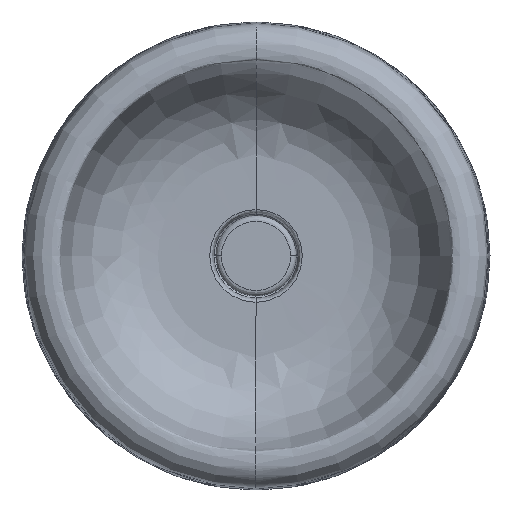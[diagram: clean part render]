
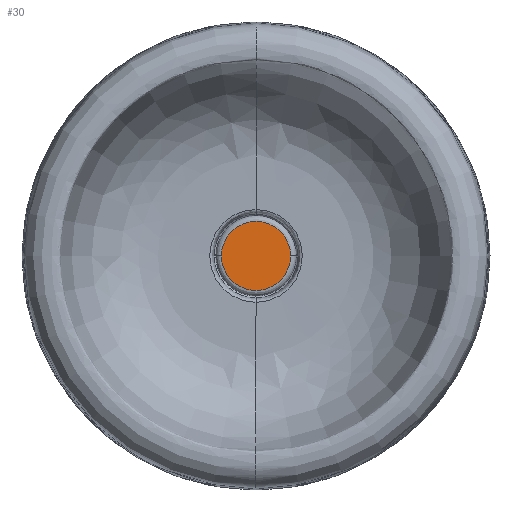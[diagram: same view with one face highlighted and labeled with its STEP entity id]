
A CAD part, top view. The second image highlights one B-rep face of the part: STEP entity #30.
In plain terms, the highlighted planar face has unit normal (0, 0, 1).
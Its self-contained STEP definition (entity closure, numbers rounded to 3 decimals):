
#30=ADVANCED_FACE('',(#48),#253,.T.);
#48=FACE_OUTER_BOUND('',#66,.T.);
#66=EDGE_LOOP('',(#124,#125));
#124=ORIENTED_EDGE('',*,*,#166,.T.);
#125=ORIENTED_EDGE('',*,*,#171,.T.);
#166=EDGE_CURVE('',#242,#245,#201,.T.);
#171=EDGE_CURVE('',#245,#242,#205,.T.);
#201=TRIMMED_CURVE($,#223,(#1516),(#1517),.T.,.CARTESIAN.);
#205=TRIMMED_CURVE($,#227,(#1530),(#1531),.T.,.CARTESIAN.);
#223=CIRCLE('',#377,31.);
#227=CIRCLE('',#381,31.);
#242=VERTEX_POINT('',#1500);
#245=VERTEX_POINT('',#1503);
#253=PLANE('',#372);
#372=AXIS2_PLACEMENT_3D('',#1466,#419,$);
#377=AXIS2_PLACEMENT_3D($,#1515,#427,#428);
#381=AXIS2_PLACEMENT_3D($,#1529,#435,#436);
#419=DIRECTION('',(0.,0.,1.));
#427=DIRECTION('',(0.,0.,1.));
#428=DIRECTION('',(1.,0.,0.));
#435=DIRECTION('',(0.,0.,1.));
#436=DIRECTION('',(-1.,0.,0.));
#1466=CARTESIAN_POINT('',(-41.067,-40.077,31.522));
#1500=CARTESIAN_POINT('',(34.933,4.923,31.522));
#1503=CARTESIAN_POINT('',(-27.067,4.923,31.522));
#1515=CARTESIAN_POINT('',(3.933,4.923,31.522));
#1516=CARTESIAN_POINT('',(34.933,4.923,31.522));
#1517=CARTESIAN_POINT('',(-27.067,4.923,31.522));
#1529=CARTESIAN_POINT('',(3.933,4.923,31.522));
#1530=CARTESIAN_POINT('',(-27.067,4.923,31.522));
#1531=CARTESIAN_POINT('',(34.933,4.923,31.522));
